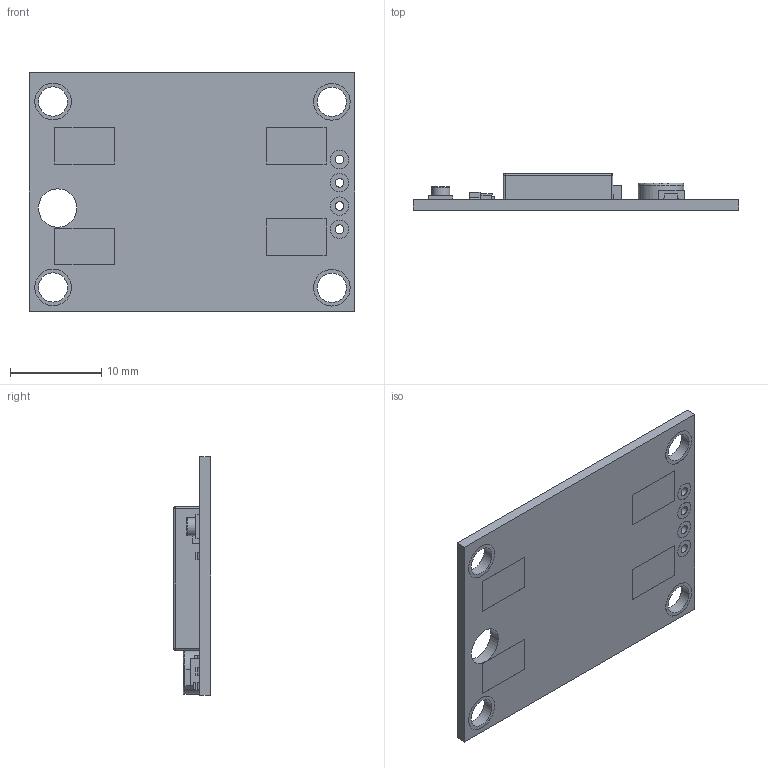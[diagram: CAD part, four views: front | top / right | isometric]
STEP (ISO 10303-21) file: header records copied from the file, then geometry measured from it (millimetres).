
FILE_DESCRIPTION(('HOOPS Exchange Step'),'2;1');
FILE_NAME('/tmp/d1f99f9b2967231ad3e27860f177bb7120220321-1-s2xy8l.SLDPRT.step','2022-03-21T15:26:48+00:00',('root'),('Unknown organisation'),'HOOPS Exchange 2021.0','HOOPS Exchange','Unknown authorisation');
FILE_SCHEMA( ('AUTOMOTIVE_DESIGN { 1 0 10303 214 1 1 1 1 }') );
Length unit declared in the file: millimetre
Products named in the file (2): Défaut; d1f99f9b2967231ad3e27860f177bb7120220321-1-s2xy8l
Assembly tree (1 placements, depth 2):
  d1f99f9b2967231ad3e27860f177bb7120220321-1-s2xy8l
    Défaut
Bounding box: 35.6 x 4.06 x 26.08 mm (x, y, z)
Volume: 1667.3 mm3; surface area: 2249.6 mm2
Topology: 1 solids, 1 shells, 184 faces, 439 edges, 290 vertices
Faces by surface type: plane 119, cylinder 57, sphere 4, torus 4
Full cylindrical faces by diameter (mm): 0.5 x1, 0.96 x4, 1.7 x1, 2 x9, 3.2 x4, 4 x8, 4.2 x1, 5 x1
Entity records: 5525 total; most frequent: DIRECTION 947, CARTESIAN_POINT 912, ORIENTED_EDGE 870, EDGE_CURVE 435, AXIS2_PLACEMENT_3D 325, VECTOR 297, LINE 297, VERTEX_POINT 290
